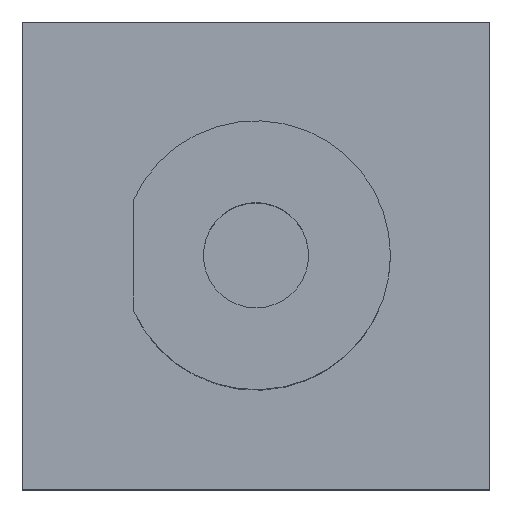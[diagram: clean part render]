
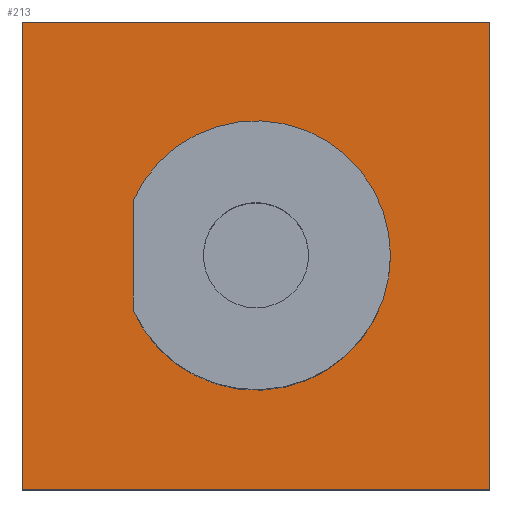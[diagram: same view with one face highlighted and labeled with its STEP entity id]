
A CAD part, top view. The second image highlights one B-rep face of the part: STEP entity #213.
In plain terms, the highlighted planar face has unit normal (0, 0, 1).
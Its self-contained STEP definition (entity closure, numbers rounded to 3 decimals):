
#24 = VERTEX_POINT('',#25);
#25 = CARTESIAN_POINT('',(-4.,-4.,3.2));
#32 = PLANE('',#33);
#33 = AXIS2_PLACEMENT_3D('',#34,#35,#36);
#34 = CARTESIAN_POINT('',(-4.,-4.,0.));
#35 = DIRECTION('',(1.,0.,-0.));
#36 = DIRECTION('',(0.,0.,1.));
#44 = PLANE('',#45);
#45 = AXIS2_PLACEMENT_3D('',#46,#47,#48);
#46 = CARTESIAN_POINT('',(-4.,-4.,0.));
#47 = DIRECTION('',(-0.,1.,0.));
#48 = DIRECTION('',(0.,0.,1.));
#85 = VERTEX_POINT('',#86);
#86 = CARTESIAN_POINT('',(-4.,4.,3.2));
#100 = PLANE('',#101);
#101 = AXIS2_PLACEMENT_3D('',#102,#103,#104);
#102 = CARTESIAN_POINT('',(-4.,4.,0.));
#103 = DIRECTION('',(-0.,1.,0.));
#104 = DIRECTION('',(0.,0.,1.));
#112 = EDGE_CURVE('',#24,#85,#113,.T.);
#113 = SURFACE_CURVE('',#114,(#118,#125),.PCURVE_S1.);
#114 = LINE('',#115,#116);
#115 = CARTESIAN_POINT('',(-4.,-4.,3.2));
#116 = VECTOR('',#117,1.);
#117 = DIRECTION('',(-0.,1.,0.));
#118 = PCURVE('',#32,#119);
#119 = DEFINITIONAL_REPRESENTATION('',(#120),#124);
#120 = LINE('',#121,#122);
#121 = CARTESIAN_POINT('',(3.2,0.));
#122 = VECTOR('',#123,1.);
#123 = DIRECTION('',(0.,-1.));
#124 = ( GEOMETRIC_REPRESENTATION_CONTEXT(2) 
PARAMETRIC_REPRESENTATION_CONTEXT() REPRESENTATION_CONTEXT('2D SPACE',''
  ) );
#125 = PCURVE('',#126,#131);
#126 = PLANE('',#127);
#127 = AXIS2_PLACEMENT_3D('',#128,#129,#130);
#128 = CARTESIAN_POINT('',(-4.,-4.,3.2));
#129 = DIRECTION('',(0.,0.,1.));
#130 = DIRECTION('',(1.,0.,-0.));
#131 = DEFINITIONAL_REPRESENTATION('',(#132),#136);
#132 = LINE('',#133,#134);
#133 = CARTESIAN_POINT('',(0.,0.));
#134 = VECTOR('',#135,1.);
#135 = DIRECTION('',(0.,1.));
#136 = ( GEOMETRIC_REPRESENTATION_CONTEXT(2) 
PARAMETRIC_REPRESENTATION_CONTEXT() REPRESENTATION_CONTEXT('2D SPACE',''
  ) );
#165 = EDGE_CURVE('',#24,#166,#168,.T.);
#166 = VERTEX_POINT('',#167);
#167 = CARTESIAN_POINT('',(4.,-4.,3.2));
#168 = SURFACE_CURVE('',#169,(#173,#180),.PCURVE_S1.);
#169 = LINE('',#170,#171);
#170 = CARTESIAN_POINT('',(-4.,-4.,3.2));
#171 = VECTOR('',#172,1.);
#172 = DIRECTION('',(1.,0.,-0.));
#173 = PCURVE('',#44,#174);
#174 = DEFINITIONAL_REPRESENTATION('',(#175),#179);
#175 = LINE('',#176,#177);
#176 = CARTESIAN_POINT('',(3.2,0.));
#177 = VECTOR('',#178,1.);
#178 = DIRECTION('',(0.,1.));
#179 = ( GEOMETRIC_REPRESENTATION_CONTEXT(2) 
PARAMETRIC_REPRESENTATION_CONTEXT() REPRESENTATION_CONTEXT('2D SPACE',''
  ) );
#180 = PCURVE('',#126,#181);
#181 = DEFINITIONAL_REPRESENTATION('',(#182),#186);
#182 = LINE('',#183,#184);
#183 = CARTESIAN_POINT('',(0.,0.));
#184 = VECTOR('',#185,1.);
#185 = DIRECTION('',(1.,0.));
#186 = ( GEOMETRIC_REPRESENTATION_CONTEXT(2) 
PARAMETRIC_REPRESENTATION_CONTEXT() REPRESENTATION_CONTEXT('2D SPACE',''
  ) );
#202 = PLANE('',#203);
#203 = AXIS2_PLACEMENT_3D('',#204,#205,#206);
#204 = CARTESIAN_POINT('',(4.,-4.,0.));
#205 = DIRECTION('',(1.,0.,-0.));
#206 = DIRECTION('',(0.,0.,1.));
#213 = ADVANCED_FACE('',(#214,#262),#126,.T.);
#214 = FACE_BOUND('',#215,.T.);
#215 = EDGE_LOOP('',(#216,#217,#218,#241));
#216 = ORIENTED_EDGE('',*,*,#112,.F.);
#217 = ORIENTED_EDGE('',*,*,#165,.T.);
#218 = ORIENTED_EDGE('',*,*,#219,.T.);
#219 = EDGE_CURVE('',#166,#220,#222,.T.);
#220 = VERTEX_POINT('',#221);
#221 = CARTESIAN_POINT('',(4.,4.,3.2));
#222 = SURFACE_CURVE('',#223,(#227,#234),.PCURVE_S1.);
#223 = LINE('',#224,#225);
#224 = CARTESIAN_POINT('',(4.,-4.,3.2));
#225 = VECTOR('',#226,1.);
#226 = DIRECTION('',(-0.,1.,0.));
#227 = PCURVE('',#126,#228);
#228 = DEFINITIONAL_REPRESENTATION('',(#229),#233);
#229 = LINE('',#230,#231);
#230 = CARTESIAN_POINT('',(8.,0.));
#231 = VECTOR('',#232,1.);
#232 = DIRECTION('',(0.,1.));
#233 = ( GEOMETRIC_REPRESENTATION_CONTEXT(2) 
PARAMETRIC_REPRESENTATION_CONTEXT() REPRESENTATION_CONTEXT('2D SPACE',''
  ) );
#234 = PCURVE('',#202,#235);
#235 = DEFINITIONAL_REPRESENTATION('',(#236),#240);
#236 = LINE('',#237,#238);
#237 = CARTESIAN_POINT('',(3.2,0.));
#238 = VECTOR('',#239,1.);
#239 = DIRECTION('',(0.,-1.));
#240 = ( GEOMETRIC_REPRESENTATION_CONTEXT(2) 
PARAMETRIC_REPRESENTATION_CONTEXT() REPRESENTATION_CONTEXT('2D SPACE',''
  ) );
#241 = ORIENTED_EDGE('',*,*,#242,.F.);
#242 = EDGE_CURVE('',#85,#220,#243,.T.);
#243 = SURFACE_CURVE('',#244,(#248,#255),.PCURVE_S1.);
#244 = LINE('',#245,#246);
#245 = CARTESIAN_POINT('',(-4.,4.,3.2));
#246 = VECTOR('',#247,1.);
#247 = DIRECTION('',(1.,0.,-0.));
#248 = PCURVE('',#126,#249);
#249 = DEFINITIONAL_REPRESENTATION('',(#250),#254);
#250 = LINE('',#251,#252);
#251 = CARTESIAN_POINT('',(0.,8.));
#252 = VECTOR('',#253,1.);
#253 = DIRECTION('',(1.,0.));
#254 = ( GEOMETRIC_REPRESENTATION_CONTEXT(2) 
PARAMETRIC_REPRESENTATION_CONTEXT() REPRESENTATION_CONTEXT('2D SPACE',''
  ) );
#255 = PCURVE('',#100,#256);
#256 = DEFINITIONAL_REPRESENTATION('',(#257),#261);
#257 = LINE('',#258,#259);
#258 = CARTESIAN_POINT('',(3.2,0.));
#259 = VECTOR('',#260,1.);
#260 = DIRECTION('',(0.,1.));
#261 = ( GEOMETRIC_REPRESENTATION_CONTEXT(2) 
PARAMETRIC_REPRESENTATION_CONTEXT() REPRESENTATION_CONTEXT('2D SPACE',''
  ) );
#262 = FACE_BOUND('',#263,.T.);
#263 = EDGE_LOOP('',(#264,#299));
#264 = ORIENTED_EDGE('',*,*,#265,.T.);
#265 = EDGE_CURVE('',#266,#268,#270,.T.);
#266 = VERTEX_POINT('',#267);
#267 = CARTESIAN_POINT('',(-2.1,0.938,3.2));
#268 = VERTEX_POINT('',#269);
#269 = CARTESIAN_POINT('',(-2.1,-0.938,3.2));
#270 = SURFACE_CURVE('',#271,(#276,#287),.PCURVE_S1.);
#271 = CIRCLE('',#272,2.3);
#272 = AXIS2_PLACEMENT_3D('',#273,#274,#275);
#273 = CARTESIAN_POINT('',(0.,0.,3.2));
#274 = DIRECTION('',(0.,0.,-1.));
#275 = DIRECTION('',(-0.913,0.408,0.));
#276 = PCURVE('',#126,#277);
#277 = DEFINITIONAL_REPRESENTATION('',(#278),#286);
#278 = ( BOUNDED_CURVE() B_SPLINE_CURVE(2,(#279,#280,#281,#282,#283,#284
,#285),.UNSPECIFIED.,.T.,.F.) B_SPLINE_CURVE_WITH_KNOTS((1,2,2,2,2,1),(
    -2.094,0.,2.094,4.189,6.283,
8.378),.UNSPECIFIED.) CURVE() GEOMETRIC_REPRESENTATION_ITEM() 
RATIONAL_B_SPLINE_CURVE((1.,0.5,1.,0.5,1.,0.5,1.)) REPRESENTATION_ITEM(
  '') );
#279 = CARTESIAN_POINT('',(1.9,4.938));
#280 = CARTESIAN_POINT('',(3.525,8.575));
#281 = CARTESIAN_POINT('',(5.862,5.35));
#282 = CARTESIAN_POINT('',(8.2,2.124));
#283 = CARTESIAN_POINT('',(4.238,1.712));
#284 = CARTESIAN_POINT('',(0.275,1.301));
#285 = CARTESIAN_POINT('',(1.9,4.938));
#286 = ( GEOMETRIC_REPRESENTATION_CONTEXT(2) 
PARAMETRIC_REPRESENTATION_CONTEXT() REPRESENTATION_CONTEXT('2D SPACE',''
  ) );
#287 = PCURVE('',#288,#293);
#288 = CYLINDRICAL_SURFACE('',#289,2.3);
#289 = AXIS2_PLACEMENT_3D('',#290,#291,#292);
#290 = CARTESIAN_POINT('',(0.,0.,0.));
#291 = DIRECTION('',(0.,0.,1.));
#292 = DIRECTION('',(1.,0.,-0.));
#293 = DEFINITIONAL_REPRESENTATION('',(#294),#298);
#294 = LINE('',#295,#296);
#295 = CARTESIAN_POINT('',(9.005,3.2));
#296 = VECTOR('',#297,1.);
#297 = DIRECTION('',(-1.,-0.));
#298 = ( GEOMETRIC_REPRESENTATION_CONTEXT(2) 
PARAMETRIC_REPRESENTATION_CONTEXT() REPRESENTATION_CONTEXT('2D SPACE',''
  ) );
#299 = ORIENTED_EDGE('',*,*,#300,.T.);
#300 = EDGE_CURVE('',#268,#266,#301,.T.);
#301 = SURFACE_CURVE('',#302,(#306,#312),.PCURVE_S1.);
#302 = LINE('',#303,#304);
#303 = CARTESIAN_POINT('',(-2.1,-4.,3.2));
#304 = VECTOR('',#305,1.);
#305 = DIRECTION('',(-0.,1.,0.));
#306 = PCURVE('',#126,#307);
#307 = DEFINITIONAL_REPRESENTATION('',(#308),#311);
#308 = B_SPLINE_CURVE_WITH_KNOTS('',1,(#309,#310),.UNSPECIFIED.,.F.,.F.,
  (2,2),(3.062,4.938),.PIECEWISE_BEZIER_KNOTS.);
#309 = CARTESIAN_POINT('',(1.9,3.062));
#310 = CARTESIAN_POINT('',(1.9,4.938));
#311 = ( GEOMETRIC_REPRESENTATION_CONTEXT(2) 
PARAMETRIC_REPRESENTATION_CONTEXT() REPRESENTATION_CONTEXT('2D SPACE',''
  ) );
#312 = PCURVE('',#313,#318);
#313 = PLANE('',#314);
#314 = AXIS2_PLACEMENT_3D('',#315,#316,#317);
#315 = CARTESIAN_POINT('',(-2.1,-4.,0.));
#316 = DIRECTION('',(1.,0.,-0.));
#317 = DIRECTION('',(0.,0.,1.));
#318 = DEFINITIONAL_REPRESENTATION('',(#319),#322);
#319 = B_SPLINE_CURVE_WITH_KNOTS('',1,(#320,#321),.UNSPECIFIED.,.F.,.F.,
  (2,2),(3.062,4.938),.PIECEWISE_BEZIER_KNOTS.);
#320 = CARTESIAN_POINT('',(3.2,-3.062));
#321 = CARTESIAN_POINT('',(3.2,-4.938));
#322 = ( GEOMETRIC_REPRESENTATION_CONTEXT(2) 
PARAMETRIC_REPRESENTATION_CONTEXT() REPRESENTATION_CONTEXT('2D SPACE',''
  ) );
